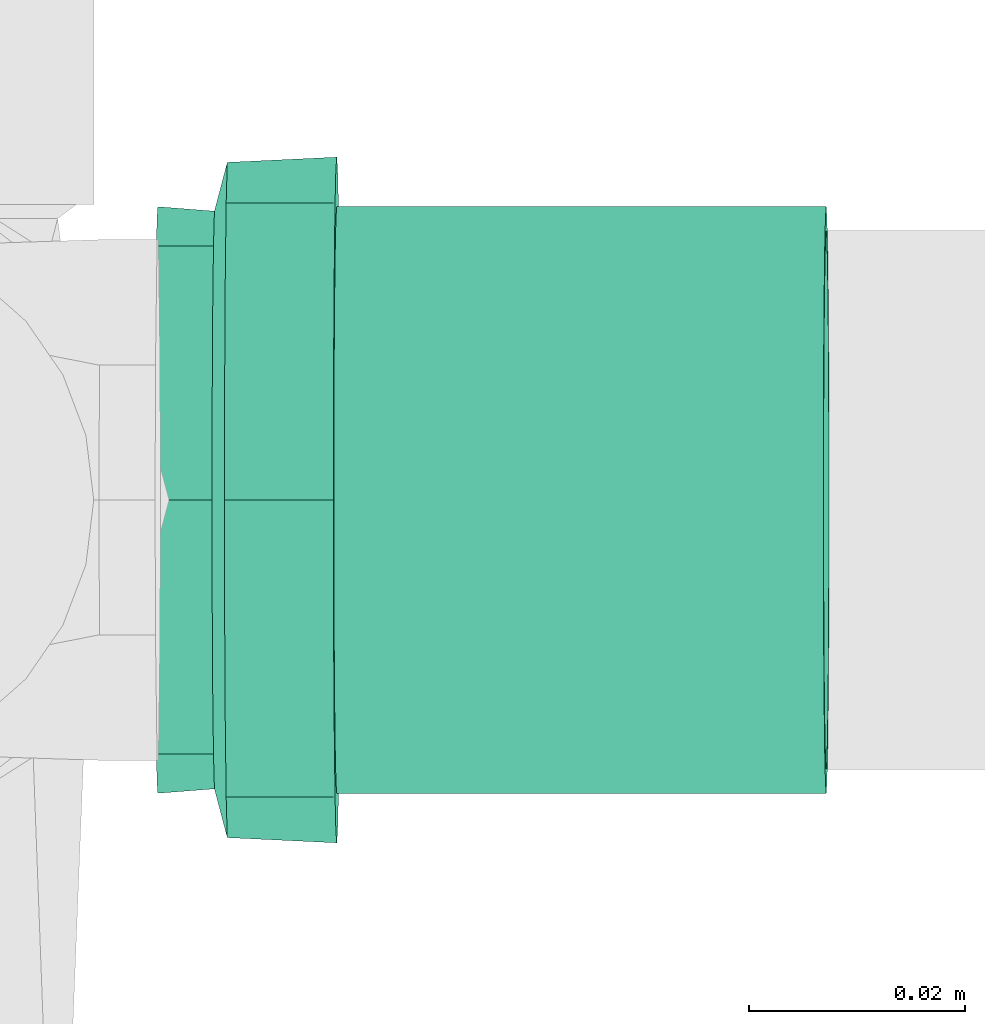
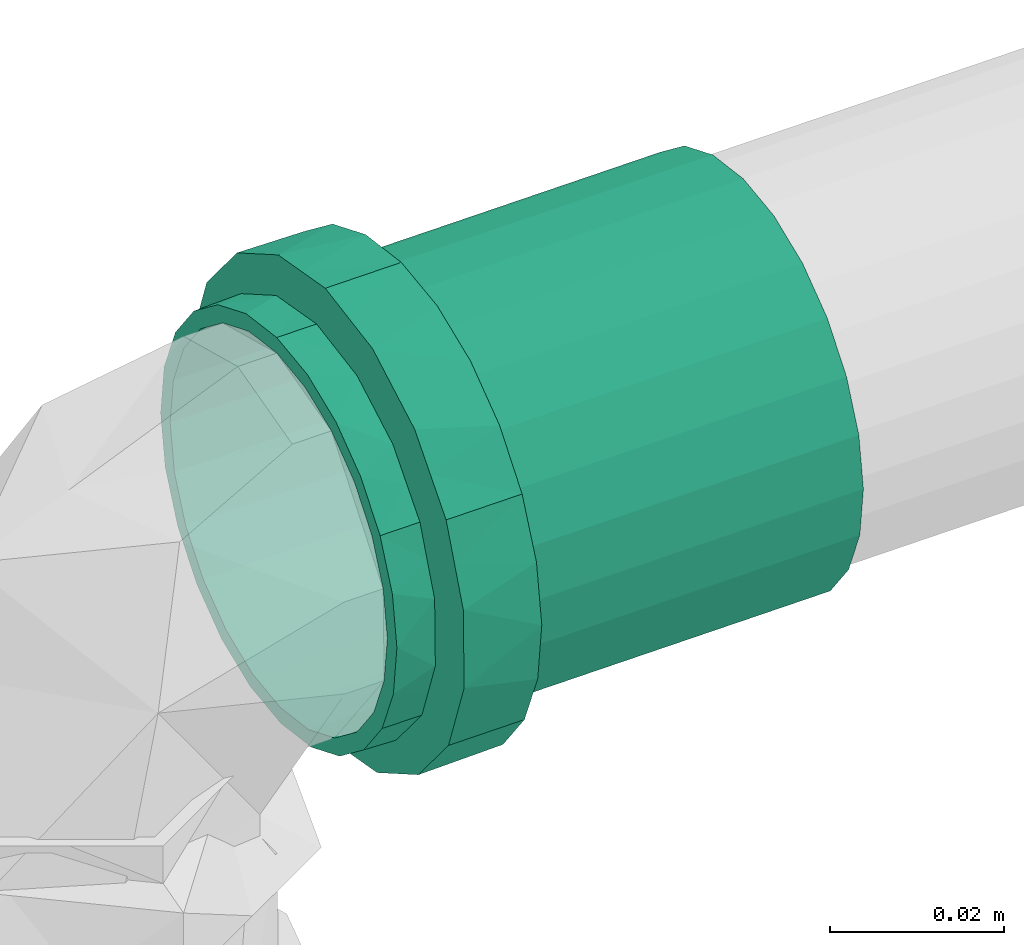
# One storey, part 146 of 589: 1 flow fitting.
"""IFC2X3 building model written with IfcOpenShell, lengths in millimetres."""

from ifc_helpers import new_model, entity, si_unit, converted_unit, derived_unit, direction, frame, origin, place, context, subcontext, project, spatial, faceted_brep, source, transform, mapped, material, type_object, type_shapes, element, save


model = new_model("IFC2X3")

# Units and contexts
model_context = context("Model", 3, precision=0.01, world=origin(), true_north=direction((6.123031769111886e-17, 1.0)))
body_context = subcontext(model_context, "Body", "Model", "MODEL_VIEW")
ifc_project = project(units=[si_unit("LENGTHUNIT", "METRE", prefix="MILLI"), si_unit("AREAUNIT", "SQUARE_METRE"), si_unit("VOLUMEUNIT", "CUBIC_METRE"), converted_unit("PLANEANGLEUNIT", "DEGREE", entity("IfcRatioMeasure", 0.017453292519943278), si_unit("PLANEANGLEUNIT", "RADIAN"), dimensions=[0, 0, 0, 0, 0, 0, 0]), si_unit("MASSUNIT", "GRAM", prefix="KILO"), derived_unit("MASSDENSITYUNIT", [(si_unit("MASSUNIT", "GRAM", prefix="KILO"), 1), (si_unit("LENGTHUNIT", "METRE"), -3)]), derived_unit("IONCONCENTRATIONUNIT", [(si_unit("MASSUNIT", "GRAM", prefix="KILO"), 1), (si_unit("LENGTHUNIT", "METRE"), -3)]), derived_unit("MOMENTOFINERTIAUNIT", [(si_unit("LENGTHUNIT", "METRE"), 4)]), si_unit("TIMEUNIT", "SECOND"), si_unit("FREQUENCYUNIT", "HERTZ"), si_unit("THERMODYNAMICTEMPERATUREUNIT", "DEGREE_CELSIUS"), derived_unit("THERMALTRANSMITTANCEUNIT", [(si_unit("MASSUNIT", "GRAM", prefix="KILO"), 1), (si_unit("THERMODYNAMICTEMPERATUREUNIT", "KELVIN"), -1), (si_unit("TIMEUNIT", "SECOND"), -3)]), derived_unit("THERMALCONDUCTANCEUNIT", [(si_unit("MASSUNIT", "GRAM", prefix="KILO"), 1), (si_unit("THERMODYNAMICTEMPERATUREUNIT", "KELVIN"), -1), (si_unit("TIMEUNIT", "SECOND"), -3), (si_unit("LENGTHUNIT", "METRE"), 1)]), derived_unit("VOLUMETRICFLOWRATEUNIT", [(si_unit("LENGTHUNIT", "METRE"), 3), (si_unit("TIMEUNIT", "SECOND"), -1)]), derived_unit("MASSFLOWRATEUNIT", [(si_unit("MASSUNIT", "GRAM", prefix="KILO"), 1), (si_unit("TIMEUNIT", "SECOND"), -1)]), derived_unit("ROTATIONALFREQUENCYUNIT", [(si_unit("TIMEUNIT", "SECOND"), -1)]), si_unit("ELECTRICCURRENTUNIT", "AMPERE"), si_unit("ELECTRICVOLTAGEUNIT", "VOLT"), si_unit("POWERUNIT", "WATT"), si_unit("FORCEUNIT", "NEWTON", prefix="KILO"), si_unit("ILLUMINANCEUNIT", "LUX"), si_unit("LUMINOUSFLUXUNIT", "LUMEN"), si_unit("LUMINOUSINTENSITYUNIT", "CANDELA"), derived_unit("USERDEFINED", [(si_unit("MASSUNIT", "GRAM", prefix="KILO"), -1), (si_unit("LENGTHUNIT", "METRE"), -2), (si_unit("TIMEUNIT", "SECOND"), 3), (si_unit("LUMINOUSFLUXUNIT", "LUMEN"), 1)]), derived_unit("USERDEFINED", [(si_unit("MASSUNIT", "GRAM", prefix="KILO"), 1), (si_unit("TIMEUNIT", "SECOND"), -3), (si_unit("LENGTHUNIT", "METRE"), 3), (si_unit("ELECTRICCURRENTUNIT", "AMPERE"), -2)]), derived_unit("SOUNDPOWERUNIT", [(si_unit("MASSUNIT", "GRAM", prefix="KILO"), 1), (si_unit("TIMEUNIT", "SECOND"), -3), (si_unit("LENGTHUNIT", "METRE"), 2)]), derived_unit("SOUNDPRESSUREUNIT", [(si_unit("MASSUNIT", "GRAM", prefix="KILO"), 1), (si_unit("LENGTHUNIT", "METRE"), -1), (si_unit("TIMEUNIT", "SECOND"), -2)]), derived_unit("LINEARVELOCITYUNIT", [(si_unit("LENGTHUNIT", "METRE"), 1), (si_unit("TIMEUNIT", "SECOND"), -1)]), si_unit("PRESSUREUNIT", "PASCAL"), derived_unit("USERDEFINED", [(si_unit("MASSUNIT", "GRAM", prefix="KILO"), 1), (si_unit("LENGTHUNIT", "METRE"), -2), (si_unit("TIMEUNIT", "SECOND"), -2)]), derived_unit("LINEARFORCEUNIT", [(si_unit("MASSUNIT", "GRAM", prefix="KILO"), 1), (si_unit("TIMEUNIT", "SECOND"), -2)]), derived_unit("PLANARFORCEUNIT", [(si_unit("MASSUNIT", "GRAM", prefix="KILO"), 1), (si_unit("LENGTHUNIT", "METRE"), -1), (si_unit("TIMEUNIT", "SECOND"), -2)]), derived_unit("SPECIFICHEATCAPACITYUNIT", [(si_unit("THERMODYNAMICTEMPERATUREUNIT", "KELVIN"), -1), (si_unit("LENGTHUNIT", "METRE"), 2), (si_unit("TIMEUNIT", "SECOND"), -2)]), derived_unit("HEATINGVALUEUNIT", [(si_unit("LENGTHUNIT", "METRE"), 2), (si_unit("TIMEUNIT", "SECOND"), -2)]), derived_unit("VAPORPERMEABILITYUNIT", [(si_unit("LENGTHUNIT", "METRE"), -1), (si_unit("TIMEUNIT", "SECOND"), 1)]), derived_unit("DYNAMICVISCOSITYUNIT", [(si_unit("MASSUNIT", "GRAM", prefix="KILO"), 1), (si_unit("TIMEUNIT", "SECOND"), -1), (si_unit("LENGTHUNIT", "METRE"), -1)]), derived_unit("THERMALEXPANSIONCOEFFICIENTUNIT", [(si_unit("THERMODYNAMICTEMPERATUREUNIT", "KELVIN"), -1)]), derived_unit("MODULUSOFELASTICITYUNIT", [(si_unit("MASSUNIT", "GRAM", prefix="KILO"), 1), (si_unit("LENGTHUNIT", "METRE"), -1), (si_unit("TIMEUNIT", "SECOND"), -2)]), derived_unit("ISOTHERMALMOISTURECAPACITYUNIT", [(si_unit("LENGTHUNIT", "METRE"), 3), (si_unit("MASSUNIT", "GRAM", prefix="KILO"), -1)]), derived_unit("MOISTUREDIFFUSIVITYUNIT", [(si_unit("TIMEUNIT", "SECOND"), -1), (si_unit("LENGTHUNIT", "METRE"), 2)])], contexts=[model_context])

# Site, building, storey
site_placement = place(None, origin())
site = spatial("IfcSite", under=ifc_project, at=site_placement, Name="Default", CompositionType="ELEMENT")
building_placement = place(site_placement, origin())
building = spatial("IfcBuilding", under=site, at=building_placement, CompositionType="ELEMENT")
storey_placement = place(building_placement, frame((0.0, 0.0, 100.0)))
storey = spatial("IfcBuildingStorey", under=building, at=storey_placement, Name="TÉRREO", CompositionType="ELEMENT", Elevation=100.0)

# Flow fitting
ifc_material = material(Name="PVC Série Normal")
pipe_fitting_type = type_object("IfcPipeFittingType", Name="PVC Esgoto_Luva Simples para Conexão_Rodrigo MEP:Standard", PredefinedType="NOTDEFINED", material=ifc_material)
shared_shape = source(origin(), body_context, "Body", "Brep", [
    faceted_brep([(16.599999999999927, 15.900000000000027, -27.53960784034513), (16.599999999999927, 22.485995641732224, -22.485995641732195), (16.599999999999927, 13.599999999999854, -23.555890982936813), (16.599999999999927, 7.039878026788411, -26.273182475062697), (16.599999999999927, 8.2304456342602, -30.71644127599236), (16.599999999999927, 19.233304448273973, -19.233304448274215), (16.599999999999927, 27.539607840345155, -15.899999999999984), (16.599999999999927, 23.55589098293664, -13.600000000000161), (16.599999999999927, 26.273182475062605, -7.03987802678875), (16.599999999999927, 30.716441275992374, -8.230445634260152), (16.599999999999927, 27.2, 0.0), (16.599999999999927, 31.8, 0.0), (16.599999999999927, 26.273182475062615, 7.0398780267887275), (16.599999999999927, 30.71644127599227, 8.23044563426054), (16.599999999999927, 23.555890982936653, 13.60000000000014), (16.599999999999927, 27.539607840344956, 15.900000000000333), (16.599999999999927, 19.233304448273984, 19.2333044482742), (16.599999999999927, 22.485995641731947, 22.48599564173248), (16.599999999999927, 13.599999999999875, 23.555890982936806), (16.599999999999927, 15.899999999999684, 27.53960784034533), (16.599999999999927, 7.039878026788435, 26.27318247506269), (16.599999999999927, 8.230445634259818, 30.716441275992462), (16.599999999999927, 0.0, 27.2), (16.599999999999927, 0.0, 31.8), (16.599999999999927, -7.039878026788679, 26.273182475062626), (16.599999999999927, -8.230445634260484, 30.716441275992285), (16.599999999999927, -13.600000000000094, 23.555890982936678), (16.599999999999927, -15.900000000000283, 27.53960784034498), (16.599999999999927, -19.23330444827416, 19.233304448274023), (16.599999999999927, -22.485995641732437, 22.48599564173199), (16.599999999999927, -23.55589098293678, 13.59999999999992), (16.599999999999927, -27.539607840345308, 15.899999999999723), (16.599999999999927, -30.71644127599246, 8.230445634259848), (16.599999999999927, -26.273182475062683, 7.039878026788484), (16.599999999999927, -31.8, 0.0), (16.599999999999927, -27.2, 0.0), (16.599999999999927, -30.71644127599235, -8.23044563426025), (16.599999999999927, -26.273182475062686, -7.03987802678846), (16.599999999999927, -27.53960784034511, -15.90000000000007), (16.599999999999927, -23.55589098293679, -13.599999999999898), (16.599999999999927, -22.485995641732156, -22.485995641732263), (16.599999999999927, -19.233304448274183, -19.233304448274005), (16.599999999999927, -15.899999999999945, -27.53960784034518), (16.599999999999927, -13.600000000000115, -23.555890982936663), (16.599999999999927, -8.230445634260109, -30.716441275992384), (16.599999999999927, -7.039878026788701, -26.273182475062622), (16.599999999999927, 0.0, -31.8), (16.599999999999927, 0.0, -27.2), (6.500000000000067, -10.708108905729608, 29.429219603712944), (6.500000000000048, -24.359073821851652, 20.44200387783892), (6.500000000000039, -27.120498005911, 15.6595386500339), (6.50000000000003, -29.881922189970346, 10.877073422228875), (6.500000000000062, -15.89769721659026, 27.540937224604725), (6.500000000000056, -20.128385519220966, 23.991470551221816), (6.50000000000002, -30.840961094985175, 5.438536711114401), (6.5000000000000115, -31.8, 0.0), (6.50000000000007, -5.518520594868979, 31.317501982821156), (6.500000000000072, 5.526376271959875, 31.316116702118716), (6.50000000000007, 0.00392783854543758, 31.316809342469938), (6.500000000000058, 20.134403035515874, 23.986420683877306), (6.500000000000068, 10.715490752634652, 29.42653259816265), (6.500000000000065, 15.904605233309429, 27.536948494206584), (6.500000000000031, 29.8846497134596, 10.869577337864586), (6.500000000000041, 27.12442527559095, 15.652735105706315), (6.5000000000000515, 24.364200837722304, 20.435892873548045), (6.5000000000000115, 31.8, 0.0), (6.499999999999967, 24.364200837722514, -20.435892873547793), (6.499999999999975, 27.12442527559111, -15.652735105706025), (6.499999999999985, 29.884649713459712, -10.869577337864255), (6.4999999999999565, 15.904605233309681, -27.53694849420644), (6.499999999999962, 20.134403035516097, -23.986420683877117), (6.499999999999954, 10.715490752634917, -29.42653259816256), (6.499999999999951, 5.526376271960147, -31.31611670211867), (6.499999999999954, -5.518520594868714, -31.317501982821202), (6.499999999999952, 0.003927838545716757, -31.316809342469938), (6.499999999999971, -20.128385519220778, -23.99147055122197), (6.499999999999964, -15.897697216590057, -27.54093722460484), (6.499999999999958, -10.70810890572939, -29.42921960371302), (6.499999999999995, -29.881922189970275, -10.877073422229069), (6.499999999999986, -27.12049800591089, -15.659538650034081), (6.499999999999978, -24.359073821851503, -20.442003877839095), (6.500000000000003, -30.840961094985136, -5.438536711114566), (6.499999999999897, -30.696173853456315, -6.259599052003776), (62.0, 13.600000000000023, -23.55589098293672), (62.0, 19.233304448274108, -19.23330444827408), (62.0, 12.499999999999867, -21.650635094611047), (62.0, 6.470476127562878, -24.14814565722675), (62.0, 7.039878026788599, -26.273182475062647), (62.0, 17.677669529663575, -17.677669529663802), (62.0, 23.55589098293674, -13.599999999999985), (62.0, 21.65063509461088, -12.50000000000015), (62.0, 24.148145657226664, -6.470476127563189), (62.0, 26.27318247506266, -7.039878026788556), (62.0, 25.0, 0.0), (62.0, 27.2, 0.0), (62.0, 24.148145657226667, 6.4704761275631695), (62.0, 26.273182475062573, 7.03987802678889), (62.0, 21.650635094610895, 12.500000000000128), (62.0, 23.555890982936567, 13.600000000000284), (62.0, 17.67766952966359, 17.67766952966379), (62.0, 19.233304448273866, 19.233304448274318), (62.0, 12.499999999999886, 21.650635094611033), (62.0, 13.59999999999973, 23.55589098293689), (62.0, 6.4704761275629, 24.14814565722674), (62.0, 7.039878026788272, 26.273182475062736), (62.0, 0.0, 25.0), (62.0, 0.0, 27.2), (62.0, -6.470476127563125, 24.148145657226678), (62.0, -7.039878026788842, 26.273182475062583), (62.0, -12.500000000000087, 21.650635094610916), (62.0, -13.600000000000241, 23.555890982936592), (62.0, -17.677669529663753, 17.677669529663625), (62.0, -19.233304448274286, 19.2333044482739), (62.0, -21.65063509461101, 12.499999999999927), (62.0, -23.555890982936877, 13.599999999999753), (62.0, -26.27318247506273, 7.039878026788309), (62.0, -24.14814565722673, 6.470476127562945), (62.0, -27.2, 0.0), (62.0, -25.0, 0.0), (62.0, -26.27318247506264, -7.0398780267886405), (62.0, -24.148145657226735, -6.470476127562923), (62.0, -23.5558909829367, -13.600000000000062), (62.0, -21.650635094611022, -12.499999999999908), (62.0, -19.233304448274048, -19.233304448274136), (62.0, -17.67766952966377, -17.677669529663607), (62.0, -13.599999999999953, -23.555890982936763), (62.0, -12.500000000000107, -21.650635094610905), (62.0, -7.039878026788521, -26.27318247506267), (62.0, -6.470476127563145, -24.148145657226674), (62.0, 0.0, -27.2), (62.0, 0.0, -25.0), (0.0, 12.499999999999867, -21.650635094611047), (0.0, 19.233304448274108, -19.23330444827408), (0.0, 13.600000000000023, -23.55589098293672), (0.0, 6.470476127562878, -24.14814565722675), (0.0, 17.677669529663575, -17.677669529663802), (0.0, 23.55589098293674, -13.599999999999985), (0.0, 21.65063509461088, -12.50000000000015), (0.0, 24.148145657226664, -6.470476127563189), (0.0, 26.27318247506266, -7.039878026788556), (0.0, 25.0, 0.0), (0.0, 27.2, 0.0), (0.0, 24.148145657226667, 6.4704761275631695), (0.0, 26.273182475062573, 7.03987802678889), (0.0, 21.650635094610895, 12.500000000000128), (0.0, 23.555890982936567, 13.600000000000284), (0.0, 17.67766952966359, 17.67766952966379), (0.0, 19.233304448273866, 19.233304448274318), (0.0, 12.499999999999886, 21.650635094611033), (0.0, 13.59999999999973, 23.55589098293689), (0.0, 6.4704761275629, 24.14814565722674), (0.0, 7.039878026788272, 26.273182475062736), (0.0, 0.0, 25.0), (0.0, 0.0, 27.2), (0.0, -6.470476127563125, 24.148145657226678), (0.0, -7.039878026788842, 26.273182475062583), (0.0, -12.500000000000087, 21.650635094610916), (0.0, -13.600000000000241, 23.555890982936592), (0.0, -17.677669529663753, 17.677669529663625), (0.0, -19.233304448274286, 19.2333044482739), (0.0, -21.65063509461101, 12.499999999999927), (0.0, -23.555890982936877, 13.599999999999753), (0.0, -26.27318247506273, 7.039878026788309), (0.0, -24.14814565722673, 6.470476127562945), (0.0, -27.2, 0.0), (0.0, -25.0, 0.0), (0.0, -26.27318247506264, -7.0398780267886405), (0.0, -24.148145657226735, -6.470476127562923), (0.0, -23.5558909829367, -13.600000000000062), (0.0, -21.650635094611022, -12.499999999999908), (0.0, -19.233304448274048, -19.233304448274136), (0.0, -17.67766952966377, -17.677669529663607), (0.0, -13.599999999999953, -23.555890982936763), (0.0, -12.500000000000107, -21.650635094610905), (0.0, -7.039878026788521, -26.27318247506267), (0.0, -6.470476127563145, -24.148145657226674), (0.0, 0.0, -27.2), (0.0, 0.0, -25.0), (0.0, 7.039878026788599, -26.273182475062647), (5.300000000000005, -26.37968999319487, 4.651830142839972), (5.299999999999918, -26.25584678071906, 5.354122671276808), (5.300000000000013, -25.559379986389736, 9.303660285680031), (5.300000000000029, -20.835434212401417, 17.48498444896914), (5.300000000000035, -17.216732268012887, 20.521006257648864), (5.300000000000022, -23.19740709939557, 13.394322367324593), (5.3000000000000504, -4.720244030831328, 26.787297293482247), (5.300000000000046, -9.15913717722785, 25.172162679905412), (5.299999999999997, -27.2, 0.0), (5.300000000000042, -13.598030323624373, 23.557028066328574), (5.300000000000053, 9.165451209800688, 25.169864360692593), (5.300000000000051, 13.603939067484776, 23.55361632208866), (5.300000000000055, 4.7269633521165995, 26.786112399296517), (5.300000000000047, 17.221879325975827, 20.516686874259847), (5.300000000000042, 20.839819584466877, 17.479757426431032), (5.3000000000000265, 25.56171296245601, 9.297248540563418), (5.299999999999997, 27.2, 0.0), (5.3000000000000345, 23.20076627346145, 13.388502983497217), (5.300000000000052, 0.003359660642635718, 26.786704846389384), (5.299999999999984, 25.56171296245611, -9.29724854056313), (5.299999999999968, 20.839819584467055, -17.47975742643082), (5.2999999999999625, 17.22187932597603, -20.516686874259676), (5.299999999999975, 23.200766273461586, -13.388502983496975), (5.299999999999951, 4.726963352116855, -26.78611239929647), (5.2999999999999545, 9.165451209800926, -25.169864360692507), (5.299999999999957, 13.603939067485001, -23.553616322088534), (5.29999999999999, -26.379689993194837, -4.651830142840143), (5.299999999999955, -9.159137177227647, -25.17216267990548), (5.299999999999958, -13.5980303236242, -23.55702806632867), (5.299999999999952, -4.720244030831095, -26.787297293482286), (5.299999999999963, -17.216732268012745, -20.52100625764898), (5.299999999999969, -20.83543421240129, -17.484984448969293), (5.299999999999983, -25.559379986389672, -9.303660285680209), (5.299999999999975, -23.197407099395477, -13.394322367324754), (5.299999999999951, 0.003359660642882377, -26.78670484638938), (39.0, -25.0, 0.0), (39.0, 25.0, 0.0)], [[[0, 1, 2]], [[0, 2, 3]], [[3, 4, 0]], [[2, 1, 5]], [[6, 5, 1]], [[7, 5, 6]], [[8, 7, 6]], [[8, 6, 9]], [[8, 9, 10]], [[10, 9, 11]], [[12, 10, 11]], [[12, 11, 13]], [[14, 12, 13]], [[14, 13, 15]], [[16, 14, 15]], [[15, 17, 16]], [[17, 18, 16]], [[17, 19, 18]], [[18, 19, 20]], [[21, 20, 19]], [[20, 21, 22]], [[22, 21, 23]], [[22, 23, 24]], [[24, 23, 25]], [[24, 25, 26]], [[27, 26, 25]], [[27, 28, 26]], [[28, 27, 29]], [[30, 28, 29]], [[31, 30, 29]], [[32, 30, 31]], [[33, 30, 32]], [[33, 32, 34]], [[35, 33, 34]], [[36, 35, 34]], [[36, 37, 35]], [[37, 36, 38]], [[39, 37, 38]], [[39, 38, 40]], [[39, 40, 41]], [[40, 42, 41]], [[41, 42, 43]], [[43, 42, 44]], [[44, 45, 43]], [[46, 45, 44]], [[4, 47, 46]], [[46, 47, 45]], [[4, 3, 47]], [[48, 27, 25]], [[31, 29, 49]], [[31, 49, 50, 51]], [[52, 53, 27]], [[32, 51, 54]], [[54, 55, 34]], [[54, 34, 32]], [[25, 56, 48]], [[49, 29, 53]], [[23, 57, 58, 56]], [[59, 19, 17]], [[27, 53, 29]], [[48, 52, 27]], [[31, 51, 32]], [[57, 23, 21]], [[60, 19, 61]], [[15, 62, 63, 64]], [[19, 60, 21]], [[15, 13, 62]], [[17, 64, 59]], [[57, 21, 60]], [[23, 56, 25]], [[15, 64, 17]], [[13, 65, 62]], [[13, 11, 65]], [[59, 61, 19]], [[65, 11, 9]], [[6, 1, 66]], [[6, 66, 67, 68]], [[69, 70, 0]], [[68, 65, 9]], [[71, 69, 0]], [[71, 0, 4]], [[4, 72, 71]], [[66, 1, 70]], [[46, 73, 74, 72]], [[75, 76, 42]], [[0, 70, 1]], [[75, 42, 40]], [[6, 68, 9]], [[73, 46, 44]], [[77, 42, 76]], [[38, 78, 79, 80]], [[42, 77, 44]], [[38, 36, 78]], [[40, 80, 75]], [[73, 44, 77]], [[46, 72, 4]], [[38, 80, 40]], [[36, 81, 82, 78]], [[55, 81, 34]], [[34, 81, 36]], [[83, 84, 85]], [[83, 85, 86]], [[86, 87, 83]], [[85, 84, 88]], [[89, 88, 84]], [[88, 89, 90]], [[90, 89, 91]], [[92, 91, 89]], [[92, 93, 91]], [[93, 92, 94]], [[95, 93, 94]], [[94, 96, 95]], [[95, 96, 97]], [[98, 97, 96]], [[97, 98, 99]], [[99, 98, 100]], [[101, 99, 100]], [[100, 102, 101]], [[101, 102, 103]], [[104, 103, 102]], [[103, 104, 105]], [[105, 104, 106]], [[105, 106, 107]], [[107, 106, 108]], [[107, 108, 109]], [[110, 109, 108]], [[110, 111, 109]], [[111, 110, 112]], [[112, 113, 111]], [[114, 113, 112]], [[113, 114, 115]], [[115, 116, 113]], [[117, 116, 115]], [[117, 118, 116]], [[119, 118, 117]], [[119, 120, 118]], [[120, 119, 121]], [[121, 122, 120]], [[122, 121, 123]], [[122, 123, 124]], [[123, 125, 124]], [[124, 125, 126]], [[126, 125, 127]], [[127, 128, 126]], [[129, 128, 127]], [[87, 130, 129]], [[129, 130, 128]], [[87, 86, 130]], [[131, 132, 133]], [[134, 131, 133]], [[135, 132, 131]], [[132, 135, 136]], [[137, 136, 135]], [[138, 136, 137]], [[136, 138, 139]], [[138, 140, 139]], [[141, 139, 140]], [[141, 140, 142]], [[142, 143, 141]], [[144, 143, 142]], [[143, 144, 145]], [[146, 145, 144]], [[147, 145, 146]], [[147, 146, 148]], [[148, 149, 147]], [[150, 149, 148]], [[149, 150, 151]], [[152, 151, 150]], [[153, 151, 152]], [[154, 153, 152]], [[155, 153, 154]], [[156, 155, 154]], [[155, 156, 157]], [[156, 158, 157]], [[159, 157, 158]], [[158, 160, 159]], [[159, 160, 161]], [[162, 161, 160]], [[160, 163, 162]], [[162, 163, 164]], [[163, 165, 164]], [[164, 165, 166]], [[165, 167, 166]], [[168, 166, 167]], [[167, 169, 168]], [[170, 168, 169]], [[171, 170, 169]], [[171, 172, 170]], [[173, 172, 171]], [[174, 172, 173]], [[173, 175, 174]], [[174, 175, 176]], [[175, 177, 176]], [[177, 134, 178]], [[176, 177, 178]], [[133, 178, 134]], [[162, 179, 180, 181]], [[159, 182, 183]], [[182, 161, 181, 184]], [[185, 155, 186]], [[161, 162, 181]], [[187, 179, 164]], [[183, 188, 157]], [[183, 157, 159]], [[161, 182, 159]], [[189, 190, 149]], [[189, 149, 151]], [[157, 188, 186]], [[157, 186, 155]], [[153, 155, 185]], [[164, 179, 162]], [[151, 191, 189]], [[147, 192, 193]], [[143, 194, 195]], [[194, 145, 193, 196]], [[143, 195, 141]], [[10, 12, 96, 94]], [[149, 192, 147]], [[153, 185, 197, 191]], [[153, 191, 151]], [[145, 147, 193]], [[190, 192, 149]], [[145, 194, 143]], [[139, 195, 198]], [[132, 199, 200]], [[199, 136, 198, 201]], [[202, 178, 203]], [[136, 139, 198]], [[139, 141, 195]], [[92, 8, 10, 94]], [[133, 203, 178]], [[200, 204, 133]], [[136, 199, 132]], [[205, 164, 166]], [[206, 207, 172]], [[133, 204, 203]], [[206, 172, 174]], [[176, 178, 202]], [[200, 133, 132]], [[174, 208, 206]], [[170, 209, 210]], [[166, 211, 205]], [[211, 168, 210, 212]], [[168, 211, 166]], [[172, 209, 170]], [[176, 202, 213, 208]], [[176, 208, 174]], [[168, 170, 210]], [[207, 209, 172]], [[205, 187, 164]], [[116, 118, 214, 165, 163]], [[156, 109, 111, 158]], [[111, 113, 160, 158]], [[113, 116, 163, 160]], [[107, 109, 156, 154]], [[154, 152, 105, 107]], [[103, 105, 152, 150]], [[103, 150, 148, 101]], [[142, 95, 97, 144]], [[97, 99, 146, 144]], [[99, 101, 148, 146]], [[93, 95, 142, 140, 215]], [[215, 140, 138, 91, 93]], [[135, 131, 85, 88]], [[90, 91, 138, 137]], [[90, 137, 135, 88]], [[86, 85, 131, 134]], [[134, 177, 130, 86]], [[128, 130, 177, 175]], [[128, 175, 173, 126]], [[167, 120, 122, 169]], [[122, 124, 171, 169]], [[124, 126, 173, 171]], [[118, 120, 167, 165, 214]], [[211, 78, 82, 81, 55, 187, 205]], [[79, 78, 211, 212, 210, 80]], [[75, 80, 210, 209, 207, 76]], [[207, 206, 208, 73, 77, 76]], [[213, 202, 72, 74, 73, 208]], [[203, 204, 69, 71, 72, 202]], [[198, 195, 65, 68]], [[199, 201, 198, 68, 67, 66]], [[204, 200, 199, 66, 70, 69]], [[195, 194, 62, 65]], [[197, 185, 56, 58, 57, 191]], [[63, 62, 194, 196, 193, 64]], [[57, 60, 61, 190, 189, 191]], [[193, 192, 190, 61, 59, 64]], [[48, 56, 185, 186, 188, 52]], [[187, 55, 54, 51, 181, 180, 179]], [[182, 184, 181, 51, 50, 49]], [[188, 183, 182, 49, 53, 52]], [[30, 33, 115, 114]], [[117, 115, 33, 35]], [[26, 28, 112, 110]], [[114, 112, 28, 30]], [[24, 26, 110, 108]], [[108, 106, 22, 24]], [[18, 20, 104, 102]], [[100, 16, 18, 102]], [[12, 14, 98, 96]], [[100, 98, 14, 16]], [[104, 20, 22, 106]], [[89, 7, 8, 92]], [[83, 87, 3, 2]], [[7, 89, 84, 5]], [[83, 2, 5, 84]], [[87, 129, 47, 3]], [[43, 45, 127, 125]], [[123, 41, 43, 125]], [[37, 39, 121, 119]], [[123, 121, 39, 41]], [[35, 37, 119, 117]], [[127, 45, 47, 129]]]),
])
type_shapes(pipe_fitting_type, [shared_shape])
flow_fitting_placement = place(storey_placement, frame((7480.382604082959, -8422.90630799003, -149.6906024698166), z_axis=(0.0, 1.0, 0.0), x_axis=(0.9999500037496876, 0.0, 0.009999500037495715)))
element("IfcFlowFitting", 1, at=flow_fitting_placement, inside=storey, type_object=pipe_fitting_type, material=ifc_material, Name="PVC Esgoto_Luva Simples para Conexão_Rodrigo MEP:Standard", ObjectType="PVC Esgoto_Luva Simples para Conexão_Rodrigo MEP:Standard", context=body_context, shape_type="MappedRepresentation", body=[
    mapped(shared_shape, transform((0.0, 0.0, 0.0), scale=1.0)),
])

save(model, "model.ifc")
